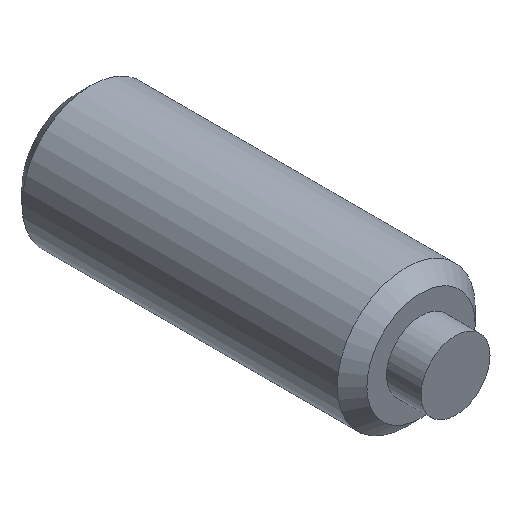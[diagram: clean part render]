
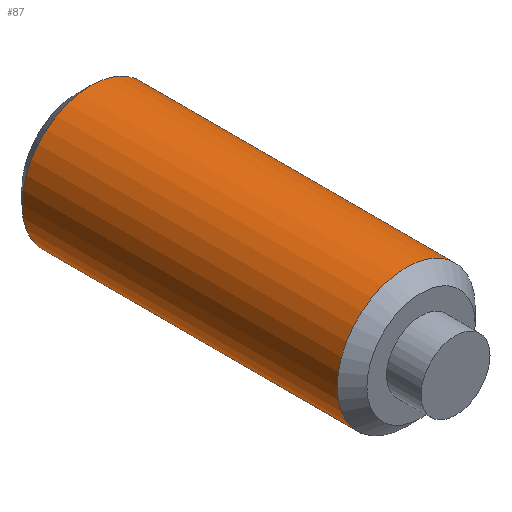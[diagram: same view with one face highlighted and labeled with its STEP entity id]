
A CAD part, isometric view. The second image highlights one B-rep face of the part: STEP entity #87.
In plain terms, the highlighted cylindrical face has radius 2 mm (diameter 4 mm), a full revolution.
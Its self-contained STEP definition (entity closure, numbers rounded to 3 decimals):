
#87 = ADVANCED_FACE( '', ( #118, #119 ), #120, .T. );
#118 = FACE_OUTER_BOUND( '', #152, .T. );
#119 = FACE_OUTER_BOUND( '', #153, .T. );
#120 = CYLINDRICAL_SURFACE( '', #154, 2. );
#152 = EDGE_LOOP( '', ( #238 ) );
#153 = EDGE_LOOP( '', ( #239 ) );
#154 = AXIS2_PLACEMENT_3D( '', #240, #241, #242 );
#238 = ORIENTED_EDGE( '', *, *, #270, .F. );
#239 = ORIENTED_EDGE( '', *, *, #271, .T. );
#240 = CARTESIAN_POINT( '', ( 0., 0., 0. ) );
#241 = DIRECTION( '', ( 0., 1., 0. ) );
#242 = DIRECTION( '', ( 0., 0., -1. ) );
#270 = EDGE_CURVE( '', #310, #310, #311, .T. );
#271 = EDGE_CURVE( '', #312, #312, #313, .T. );
#310 = VERTEX_POINT( '', #370 );
#311 = CIRCLE( '', #371, 2. );
#312 = VERTEX_POINT( '', #372 );
#313 = CIRCLE( '', #373, 2. );
#370 = CARTESIAN_POINT( '', ( 0., 1.43, -2. ) );
#371 = AXIS2_PLACEMENT_3D( '', #404, #405, #406 );
#372 = CARTESIAN_POINT( '', ( 0., 10.571, -2. ) );
#373 = AXIS2_PLACEMENT_3D( '', #407, #408, #409 );
#404 = CARTESIAN_POINT( '', ( 0., 1.43, 0. ) );
#405 = DIRECTION( '', ( 0., -1., 0. ) );
#406 = DIRECTION( '', ( 0., 0., -1. ) );
#407 = CARTESIAN_POINT( '', ( 0., 10.571, 0. ) );
#408 = DIRECTION( '', ( 0., -1., 0. ) );
#409 = DIRECTION( '', ( 0., 0., -1. ) );
